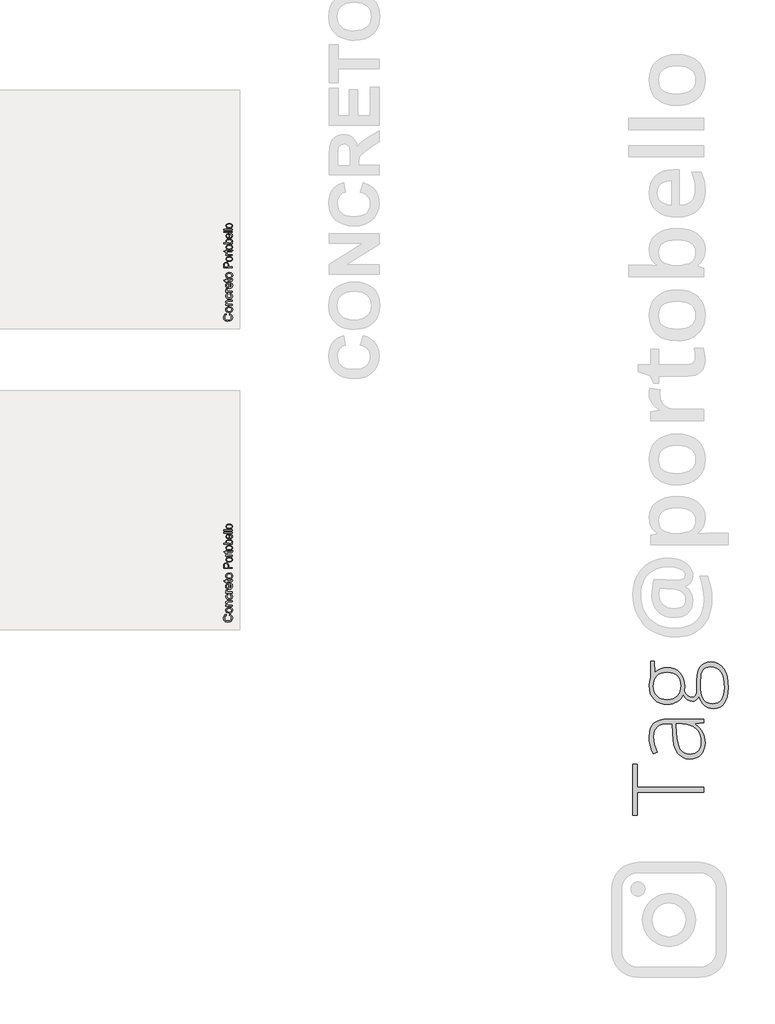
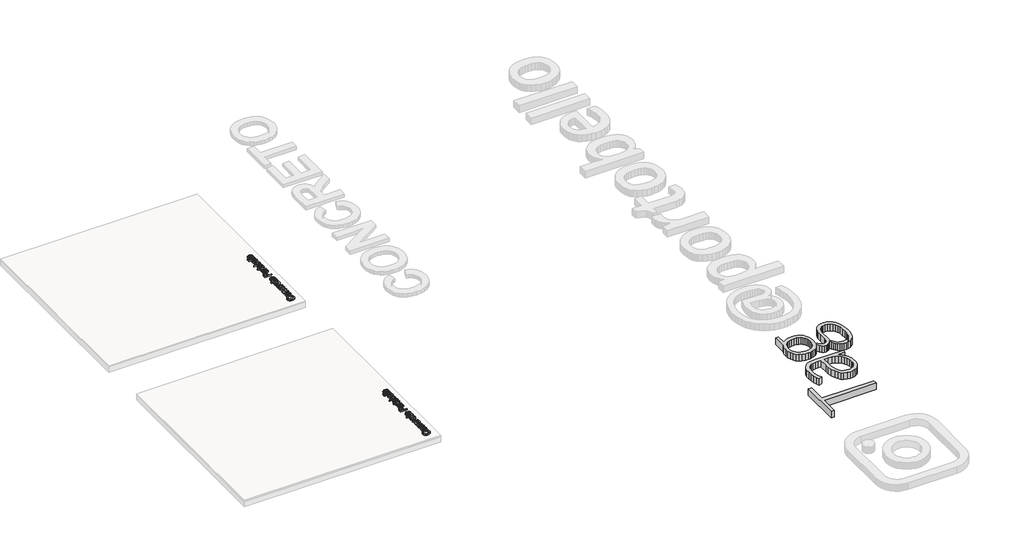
# One storey, part 7 of 12: 5 proxies.
"""IFC4 building model written with IfcOpenShell, lengths in millimetres."""

from ifc_helpers import new_model, si_unit, frame, origin, origin_with_axes, place, context, project, spatial, polyline, outline, extrude, element, save

model = new_model("IFC4")

# Units and contexts
model_context = context("Model", 3, world=origin())
ifc_project = project(units=[si_unit("LENGTHUNIT", "METRE", prefix="MILLI")], contexts=[model_context])

# Site, building, storey
site = spatial("IfcSite", under=ifc_project)
building = spatial("IfcBuilding", under=site)
storey = spatial("IfcBuildingStorey", under=building, Name="PORTOBELLO - SHOWROOM", Elevation=0.0)

# Proxies
placement = place(None, origin())
element("IfcBuildingElementProxy", 1, Name="10mm Arial", ObjectType="10mm Arial", at=placement, inside=storey, context=model_context, shape_type="SweptSolid", body=[
    extrude(outline(polyline([(-15805.3095564, -9697.3091823), (-15802.0721949, -9684.7521435), (-15787.4396885, -9690.5462849), (-15776.7496509, -9699.6391016), (-15770.2105484, -9711.5830037), (-15768.0308476, -9725.9304015), (-15769.6801852, -9740.4954628), (-15774.628198, -9752.0622859), (-15782.7032078, -9760.928242), (-15793.7335363, -9767.3907024), (-15820.588922, -9772.6514149), (-15835.2367567, -9771.1645585), (-15847.885766, -9766.7039893), (-15858.1343452, -9759.5026993), (-15865.58089, -9749.7936803), (-15870.1150356, -9738.2789738), (-15871.6264174, -9725.6606214), (-15869.6705115, -9711.8926377), (-15863.8027937, -9700.5097556), (-15854.3850146, -9691.8675944), (-15841.7789249, -9686.3217734), (-15838.786818, -9698.8788121), (-15854.2255991, -9709.179508), (-15859.0693787, -9726.1511307), (-15853.6983015, -9745.7960293), (-15839.2773273, -9756.8938028), (-15820.6134474, -9760.0943761), (-15798.9819861, -9756.3051916), (-15785.1618858, -9744.5084423), (-15780.5878863, -9727.1812003), (-15782.1452535, -9716.6996291), (-15786.8173548, -9707.9654974), (-15794.5551394, -9701.3712127), (-15805.3095564, -9697.3091823)])), frame((0.0, 0.0, 17.0), z_axis=(0.0, 0.0, 1.0), x_axis=(1.0, 0.0, 0.0)), (0.0, 0.0, 1.0), 20.0),
    extrude(outline(polyline([(-15806.4867788, -9672.1951048), (-15824.2738733, -9669.4789094), (-15836.7757297, -9661.3303232), (-15842.900965, -9651.2626192), (-15844.94271, -9639.2083525), (-15842.4564409, -9626.0167173), (-15834.9976334, -9615.4799638), (-15823.1548989, -9608.5729794), (-15807.5168484, -9606.2706512), (-15785.1741486, -9610.3418786), (-15772.5312707, -9622.1999416), (-15768.0308476, -9639.2083525), (-15770.5079197, -9652.5594033), (-15777.939136, -9663.083894), (-15790.0301909, -9669.9173021), (-15806.4867788, -9672.1951048)]), holes=[polyline([(-15806.5113043, -9659.638066), (-15795.1468163, -9658.1849321), (-15787.0503467, -9653.8255305), (-15782.2035014, -9647.2649682), (-15780.5878863, -9639.2083525), (-15782.2126985, -9631.188525), (-15787.0871349, -9624.6402255), (-15795.2909034, -9620.2808239), (-15806.9037117, -9618.82769), (-15817.9371059, -9620.2900209), (-15825.9232109, -9624.6770137), (-15830.7700562, -9631.2345103), (-15832.3856713, -9639.2083525), (-15830.7761875, -9647.2649682), (-15825.9477364, -9653.8255305), (-15817.8696609, -9658.1849321), (-15806.5113043, -9659.638066)])]), frame((0.0, 0.0, 17.0), z_axis=(0.0, 0.0, 1.0), x_axis=(1.0, 0.0, 0.0)), (0.0, 0.0, 1.0), 20.0),
    extrude(outline(polyline([(-15769.6004774, -9592.1439826), (-15843.3730802, -9592.1439826), (-15843.3730802, -9579.5869438), (-15833.0723843, -9579.5869438), (-15841.9751286, -9569.9852238), (-15844.94271, -9556.876362), (-15842.5514771, -9545.018299), (-15836.2729577, -9536.9248951), (-15827.0391196, -9533.160236), (-15814.8990138, -9532.4980485), (-15769.6004774, -9532.4980485), (-15769.6004774, -9545.0550872), (-15813.2067566, -9545.0550872), (-15824.3167928, -9546.5020897), (-15830.190642, -9551.6156495), (-15832.3856713, -9560.2363509), (-15827.4560525, -9573.8602474), (-15820.3130105, -9578.1552697), (-15808.7431217, -9579.5869438), (-15769.6004774, -9579.5869438), (-15769.6004774, -9592.1439826)])), frame((0.0, 0.0, 17.0), z_axis=(0.0, 0.0, 1.0), x_axis=(1.0, 0.0, 0.0)), (0.0, 0.0, 1.0), 20.0),
    extrude(outline(polyline([(-15796.2841848, -9468.1432248), (-15794.714555, -9455.586186), (-15783.5462707, -9459.0871963), (-15775.1064446, -9465.6661527), (-15769.7997468, -9474.703787), (-15768.0308476, -9485.5808313), (-15770.4987226, -9498.9380134), (-15777.9023478, -9509.3827964), (-15789.9167606, -9516.124234), (-15806.2169987, -9518.3713798), (-15827.0759078, -9514.5331444), (-15840.4790752, -9502.8344969), (-15844.94271, -9485.7525096), (-15843.4098684, -9475.1421797), (-15838.8113435, -9466.659434), (-15831.3923899, -9460.5740527), (-15821.3982623, -9457.1558158), (-15819.8286325, -9469.7128546), (-15829.2341488, -9475.5376529), (-15832.3856713, -9485.6544077), (-15830.8344355, -9493.7692714), (-15826.1807283, -9500.210272), (-15818.1731635, -9504.4133238), (-15806.5603552, -9505.8143411), (-15794.791197, -9504.4439806), (-15786.7560411, -9500.3328993), (-15782.129925, -9494.0083947), (-15780.5878863, -9485.9977643), (-15784.4383846, -9474.1642267), (-15796.2841848, -9468.1432248)])), frame((0.0, 0.0, 17.0), z_axis=(0.0, 0.0, 1.0), x_axis=(1.0, 0.0, 0.0)), (0.0, 0.0, 1.0), 20.0),
    extrude(outline(polyline([(-15769.6004774, -9444.5987771), (-15843.3730802, -9444.5987771), (-15843.3730802, -9433.6113681), (-15832.4592477, -9433.6113681), (-15842.5146889, -9425.8122698), (-15844.94271, -9417.9641206), (-15841.0676864, -9405.3580309), (-15829.8104973, -9409.5518857), (-15832.3856713, -9418.3810535), (-15829.9085992, -9425.4811761), (-15823.0414686, -9430.0061246), (-15808.3752397, -9432.0417383), (-15769.6004774, -9432.0417383), (-15769.6004774, -9444.5987771)])), frame((0.0, 0.0, 17.0), z_axis=(0.0, 0.0, 1.0), x_axis=(1.0, 0.0, 0.0)), (0.0, 0.0, 1.0), 20.0),
    extrude(outline(polyline([(-15791.5752953, -9345.8592496), (-15790.0056654, -9333.5474655), (-15780.7289078, -9337.9835092), (-15773.7943322, -9345.0621719), (-15769.4717187, -9354.6240381), (-15768.0308476, -9366.5096922), (-15770.5171167, -9381.2433661), (-15777.9759242, -9392.580263), (-15789.922892, -9399.8091442), (-15805.8736422, -9402.2187712), (-15822.3608869, -9399.7846187), (-15834.6910651, -9392.4821611), (-15842.3797988, -9381.2985484), (-15844.94271, -9367.2209308), (-15842.3859302, -9353.5817058), (-15834.7155906, -9342.6832017), (-15822.4099378, -9335.5370939), (-15805.9472185, -9333.155058), (-15802.5627042, -9333.2286344), (-15802.5627042, -9389.6617325), (-15793.1633192, -9387.488163), (-15786.2532691, -9382.4389826), (-15782.004232, -9375.1518534), (-15780.5878863, -9366.2644376), (-15783.2121112, -9353.9526535), (-15791.5752953, -9345.8592496)]), holes=[polyline([(-15815.119743, -9389.6617325), (-15815.119743, -9345.7120968), (-15826.4995593, -9350.7398174), (-15830.9141433, -9358.0606691), (-15832.3856713, -9367.2699817), (-15827.6890445, -9382.7332882), (-15822.1984057, -9387.5985276), (-15815.119743, -9389.6617325)])]), frame((0.0, 0.0, 17.0), z_axis=(0.0, 0.0, 1.0), x_axis=(1.0, 0.0, 0.0)), (0.0, 0.0, 1.0), 20.0),
    extrude(outline(polyline([(-15780.0728516, -9293.9143118), (-15769.2325954, -9292.344682), (-15768.0308476, -9301.7379356), (-15770.1155122, -9312.2593607), (-15775.5846912, -9317.5078105), (-15789.8339872, -9319.0283894), (-15830.8160414, -9319.0283894), (-15830.8160414, -9328.4461685), (-15843.3730802, -9328.4461685), (-15843.3730802, -9319.0283894), (-15861.3011961, -9319.0283894), (-15868.6833615, -9306.4713506), (-15843.3730802, -9306.4713506), (-15843.3730802, -9293.9143118), (-15830.8160414, -9293.9143118), (-15830.8160414, -9306.4713506), (-15790.2018692, -9306.4713506), (-15783.727146, -9305.809163), (-15781.4340149, -9303.6631847), (-15780.5878863, -9299.3834908), (-15780.0728516, -9293.9143118)])), frame((0.0, 0.0, 17.0), z_axis=(0.0, 0.0, 1.0), x_axis=(1.0, 0.0, 0.0)), (0.0, 0.0, 1.0), 20.0),
    extrude(outline(polyline([(-15806.4867788, -9284.4965328), (-15824.2738733, -9281.7803374), (-15836.7757297, -9273.6317512), (-15842.900965, -9263.5640472), (-15844.94271, -9251.5097805), (-15842.4564409, -9238.3181453), (-15834.9976334, -9227.7813918), (-15823.1548989, -9220.8744074), (-15807.5168484, -9218.5720792), (-15785.1741486, -9222.6433066), (-15772.5312707, -9234.5013696), (-15768.0308476, -9251.5097805), (-15770.5079197, -9264.8608313), (-15777.939136, -9275.385322), (-15790.0301909, -9282.2187301), (-15806.4867788, -9284.4965328)]), holes=[polyline([(-15806.5113043, -9271.939494), (-15795.1468163, -9270.4863601), (-15787.0503467, -9266.1269585), (-15782.2035014, -9259.5663962), (-15780.5878863, -9251.5097805), (-15782.2126985, -9243.489953), (-15787.0871349, -9236.9416535), (-15795.2909034, -9232.5822519), (-15806.9037117, -9231.129118), (-15817.9371059, -9232.5914489), (-15825.9232109, -9236.9784417), (-15830.7700562, -9243.5359383), (-15832.3856713, -9251.5097805), (-15830.7761875, -9259.5663962), (-15825.9477364, -9266.1269585), (-15817.8696609, -9270.4863601), (-15806.5113043, -9271.939494)])]), frame((0.0, 0.0, 17.0), z_axis=(0.0, 0.0, 1.0), x_axis=(1.0, 0.0, 0.0)), (0.0, 0.0, 1.0), 20.0),
])
element("IfcBuildingElementProxy", 2, Name="10mm Arial", ObjectType="10mm Arial", at=placement, inside=storey, context=model_context, shape_type="SweptSolid", body=[
    extrude(outline(polyline([(-15805.3095564, -6297.3091823), (-15802.0721949, -6284.7521435), (-15787.4396885, -6290.5462849), (-15776.7496509, -6299.6391016), (-15770.2105484, -6311.5830037), (-15768.0308476, -6325.9304015), (-15769.6801852, -6340.4954628), (-15774.628198, -6352.0622859), (-15782.7032078, -6360.928242), (-15793.7335363, -6367.3907024), (-15820.588922, -6372.6514149), (-15835.2367567, -6371.1645585), (-15847.885766, -6366.7039893), (-15858.1343452, -6359.5026993), (-15865.58089, -6349.7936803), (-15870.1150356, -6338.2789738), (-15871.6264174, -6325.6606214), (-15869.6705115, -6311.8926377), (-15863.8027937, -6300.5097556), (-15854.3850146, -6291.8675944), (-15841.7789249, -6286.3217734), (-15838.786818, -6298.8788121), (-15854.2255991, -6309.179508), (-15859.0693787, -6326.1511307), (-15853.6983015, -6345.7960293), (-15839.2773273, -6356.8938028), (-15820.6134474, -6360.0943761), (-15798.9819861, -6356.3051916), (-15785.1618858, -6344.5084423), (-15780.5878863, -6327.1812003), (-15782.1452535, -6316.6996291), (-15786.8173548, -6307.9654974), (-15794.5551394, -6301.3712127), (-15805.3095564, -6297.3091823)])), frame((0.0, 0.0, 17.0), z_axis=(0.0, 0.0, 1.0), x_axis=(1.0, 0.0, 0.0)), (0.0, 0.0, 1.0), 20.0),
    extrude(outline(polyline([(-15806.4867788, -6272.1951048), (-15824.2738733, -6269.4789094), (-15836.7757297, -6261.3303232), (-15842.900965, -6251.2626192), (-15844.94271, -6239.2083525), (-15842.4564409, -6226.0167173), (-15834.9976334, -6215.4799638), (-15823.1548989, -6208.5729794), (-15807.5168484, -6206.2706512), (-15785.1741486, -6210.3418786), (-15772.5312707, -6222.1999416), (-15768.0308476, -6239.2083525), (-15770.5079197, -6252.5594033), (-15777.939136, -6263.083894), (-15790.0301909, -6269.9173021), (-15806.4867788, -6272.1951048)]), holes=[polyline([(-15806.5113043, -6259.638066), (-15795.1468163, -6258.1849321), (-15787.0503467, -6253.8255305), (-15782.2035014, -6247.2649682), (-15780.5878863, -6239.2083525), (-15782.2126985, -6231.188525), (-15787.0871349, -6224.6402255), (-15795.2909034, -6220.2808239), (-15806.9037117, -6218.82769), (-15817.9371059, -6220.2900209), (-15825.9232109, -6224.6770137), (-15830.7700562, -6231.2345103), (-15832.3856713, -6239.2083525), (-15830.7761875, -6247.2649682), (-15825.9477364, -6253.8255305), (-15817.8696609, -6258.1849321), (-15806.5113043, -6259.638066)])]), frame((0.0, 0.0, 17.0), z_axis=(0.0, 0.0, 1.0), x_axis=(1.0, 0.0, 0.0)), (0.0, 0.0, 1.0), 20.0),
    extrude(outline(polyline([(-15769.6004774, -6192.1439826), (-15843.3730802, -6192.1439826), (-15843.3730802, -6179.5869438), (-15833.0723843, -6179.5869438), (-15841.9751286, -6169.9852238), (-15844.94271, -6156.876362), (-15842.5514771, -6145.018299), (-15836.2729577, -6136.9248951), (-15827.0391196, -6133.160236), (-15814.8990138, -6132.4980485), (-15769.6004774, -6132.4980485), (-15769.6004774, -6145.0550872), (-15813.2067566, -6145.0550872), (-15824.3167928, -6146.5020897), (-15830.190642, -6151.6156495), (-15832.3856713, -6160.2363509), (-15827.4560525, -6173.8602474), (-15820.3130105, -6178.1552697), (-15808.7431217, -6179.5869438), (-15769.6004774, -6179.5869438), (-15769.6004774, -6192.1439826)])), frame((0.0, 0.0, 17.0), z_axis=(0.0, 0.0, 1.0), x_axis=(1.0, 0.0, 0.0)), (0.0, 0.0, 1.0), 20.0),
    extrude(outline(polyline([(-15796.2841848, -6068.1432248), (-15794.714555, -6055.586186), (-15783.5462707, -6059.0871963), (-15775.1064446, -6065.6661527), (-15769.7997468, -6074.703787), (-15768.0308476, -6085.5808313), (-15770.4987226, -6098.9380134), (-15777.9023478, -6109.3827964), (-15789.9167606, -6116.124234), (-15806.2169987, -6118.3713798), (-15827.0759078, -6114.5331444), (-15840.4790752, -6102.8344969), (-15844.94271, -6085.7525096), (-15843.4098684, -6075.1421797), (-15838.8113435, -6066.659434), (-15831.3923899, -6060.5740527), (-15821.3982623, -6057.1558158), (-15819.8286325, -6069.7128546), (-15829.2341488, -6075.5376529), (-15832.3856713, -6085.6544077), (-15830.8344355, -6093.7692714), (-15826.1807283, -6100.210272), (-15818.1731635, -6104.4133238), (-15806.5603552, -6105.8143411), (-15794.791197, -6104.4439806), (-15786.7560411, -6100.3328993), (-15782.129925, -6094.0083947), (-15780.5878863, -6085.9977643), (-15784.4383846, -6074.1642267), (-15796.2841848, -6068.1432248)])), frame((0.0, 0.0, 17.0), z_axis=(0.0, 0.0, 1.0), x_axis=(1.0, 0.0, 0.0)), (0.0, 0.0, 1.0), 20.0),
    extrude(outline(polyline([(-15769.6004774, -6044.5987771), (-15843.3730802, -6044.5987771), (-15843.3730802, -6033.6113681), (-15832.4592477, -6033.6113681), (-15842.5146889, -6025.8122698), (-15844.94271, -6017.9641206), (-15841.0676864, -6005.3580309), (-15829.8104973, -6009.5518857), (-15832.3856713, -6018.3810535), (-15829.9085992, -6025.4811761), (-15823.0414686, -6030.0061246), (-15808.3752397, -6032.0417383), (-15769.6004774, -6032.0417383), (-15769.6004774, -6044.5987771)])), frame((0.0, 0.0, 17.0), z_axis=(0.0, 0.0, 1.0), x_axis=(1.0, 0.0, 0.0)), (0.0, 0.0, 1.0), 20.0),
    extrude(outline(polyline([(-15791.5752953, -5945.8592496), (-15790.0056654, -5933.5474655), (-15780.7289078, -5937.9835092), (-15773.7943322, -5945.0621719), (-15769.4717187, -5954.6240381), (-15768.0308476, -5966.5096922), (-15770.5171167, -5981.2433661), (-15777.9759242, -5992.580263), (-15789.922892, -5999.8091442), (-15805.8736422, -6002.2187712), (-15822.3608869, -5999.7846187), (-15834.6910651, -5992.4821611), (-15842.3797988, -5981.2985484), (-15844.94271, -5967.2209308), (-15842.3859302, -5953.5817058), (-15834.7155906, -5942.6832017), (-15822.4099378, -5935.5370939), (-15805.9472185, -5933.155058), (-15802.5627042, -5933.2286344), (-15802.5627042, -5989.6617325), (-15793.1633192, -5987.488163), (-15786.2532691, -5982.4389826), (-15782.004232, -5975.1518534), (-15780.5878863, -5966.2644376), (-15783.2121112, -5953.9526535), (-15791.5752953, -5945.8592496)]), holes=[polyline([(-15815.119743, -5989.6617325), (-15815.119743, -5945.7120968), (-15826.4995593, -5950.7398174), (-15830.9141433, -5958.0606691), (-15832.3856713, -5967.2699817), (-15827.6890445, -5982.7332882), (-15822.1984057, -5987.5985276), (-15815.119743, -5989.6617325)])]), frame((0.0, 0.0, 17.0), z_axis=(0.0, 0.0, 1.0), x_axis=(1.0, 0.0, 0.0)), (0.0, 0.0, 1.0), 20.0),
    extrude(outline(polyline([(-15780.0728516, -5893.9143118), (-15769.2325954, -5892.344682), (-15768.0308476, -5901.7379356), (-15770.1155122, -5912.2593607), (-15775.5846912, -5917.5078105), (-15789.8339872, -5919.0283894), (-15830.8160414, -5919.0283894), (-15830.8160414, -5928.4461685), (-15843.3730802, -5928.4461685), (-15843.3730802, -5919.0283894), (-15861.3011961, -5919.0283894), (-15868.6833615, -5906.4713506), (-15843.3730802, -5906.4713506), (-15843.3730802, -5893.9143118), (-15830.8160414, -5893.9143118), (-15830.8160414, -5906.4713506), (-15790.2018692, -5906.4713506), (-15783.727146, -5905.809163), (-15781.4340149, -5903.6631847), (-15780.5878863, -5899.3834908), (-15780.0728516, -5893.9143118)])), frame((0.0, 0.0, 17.0), z_axis=(0.0, 0.0, 1.0), x_axis=(1.0, 0.0, 0.0)), (0.0, 0.0, 1.0), 20.0),
    extrude(outline(polyline([(-15806.4867788, -5884.4965328), (-15824.2738733, -5881.7803374), (-15836.7757297, -5873.6317512), (-15842.900965, -5863.5640472), (-15844.94271, -5851.5097805), (-15842.4564409, -5838.3181453), (-15834.9976334, -5827.7813918), (-15823.1548989, -5820.8744074), (-15807.5168484, -5818.5720792), (-15785.1741486, -5822.6433066), (-15772.5312707, -5834.5013696), (-15768.0308476, -5851.5097805), (-15770.5079197, -5864.8608313), (-15777.939136, -5875.385322), (-15790.0301909, -5882.2187301), (-15806.4867788, -5884.4965328)]), holes=[polyline([(-15806.5113043, -5871.939494), (-15795.1468163, -5870.4863601), (-15787.0503467, -5866.1269585), (-15782.2035014, -5859.5663962), (-15780.5878863, -5851.5097805), (-15782.2126985, -5843.489953), (-15787.0871349, -5836.9416535), (-15795.2909034, -5832.5822519), (-15806.9037117, -5831.129118), (-15817.9371059, -5832.5914489), (-15825.9232109, -5836.9784417), (-15830.7700562, -5843.5359383), (-15832.3856713, -5851.5097805), (-15830.7761875, -5859.5663962), (-15825.9477364, -5866.1269585), (-15817.8696609, -5870.4863601), (-15806.5113043, -5871.939494)])]), frame((0.0, 0.0, 17.0), z_axis=(0.0, 0.0, 1.0), x_axis=(1.0, 0.0, 0.0)), (0.0, 0.0, 1.0), 20.0),
])
element("IfcBuildingElementProxy", 3, Name="10mm Arial Narrow", ObjectType="10mm Arial Narrow", at=placement, inside=storey, context=model_context, shape_type="SweptSolid", body=[
    extrude(outline(polyline([(-15769.6004774, -9165.6286257), (-15870.3190812, -9165.6286257), (-15870.3190812, -9134.3317411), (-15868.4407604, -9118.0360395), (-15858.9603173, -9106.5630534), (-15841.9412084, -9102.273375), (-15829.8653829, -9104.0596834), (-15820.2389891, -9109.4186086), (-15813.9377307, -9119.1623974), (-15811.8373113, -9134.1032966), (-15811.8373113, -9155.8816641), (-15769.6004774, -9155.8816641), (-15769.6004774, -9165.6286257)]), holes=[polyline([(-15823.2087665, -9155.8816641), (-15823.2087665, -9132.9103091), (-15827.7395807, -9117.0461137), (-15841.4081715, -9112.0203366), (-15851.5739479, -9114.4951511), (-15857.3738977, -9120.47278), (-15858.9476259, -9133.1387536), (-15858.9476259, -9155.8816641), (-15823.2087665, -9155.8816641)])]), frame((0.0, 0.0, 17.0), z_axis=(0.0, 0.0, 1.0), x_axis=(1.0, 0.0, 0.0)), (0.0, 0.0, 1.0), 20.0),
    extrude(outline(polyline([(-15806.1515836, -9094.1509069), (-15822.7423592, -9092.1964381), (-15834.694444, -9086.3330315), (-15841.9189986, -9077.4744647), (-15844.3271834, -9066.5345156), (-15841.9189986, -9055.72148), (-15834.694444, -9046.8375306), (-15822.9327295, -9040.8979758), (-15806.913065, -9038.9181242), (-15789.7511784, -9040.8630746), (-15777.6087233, -9046.6979257), (-15770.3841687, -9055.5469739), (-15767.9759838, -9066.5345156), (-15770.3905144, -9077.3951438), (-15777.634106, -9086.2695747), (-15789.5925365, -9092.1805739), (-15806.1515836, -9094.1509069)]), holes=[polyline([(-15806.1769663, -9084.4039453), (-15793.6252149, -9083.0999084), (-15784.7539569, -9079.1877978), (-15779.4806983, -9073.3466011), (-15777.7229455, -9066.2553058), (-15779.4965625, -9059.5352326), (-15784.8174137, -9053.8431593), (-15793.7045359, -9049.9596042), (-15806.1769663, -9048.6650859), (-15818.6906437, -9049.9691228), (-15827.5492104, -9053.8812333), (-15832.8224689, -9059.7224301), (-15834.5802218, -9066.8137254), (-15832.8129504, -9073.5813912), (-15827.5111363, -9079.263946), (-15818.6430511, -9083.1189455), (-15806.1769663, -9084.4039453)])]), frame((0.0, 0.0, 17.0), z_axis=(0.0, 0.0, 1.0), x_axis=(1.0, 0.0, 0.0)), (0.0, 0.0, 1.0), 20.0),
    extrude(outline(polyline([(-15777.7229455, -8967.4404054), (-15767.9759838, -8965.8159118), (-15767.9759838, -8973.1768985), (-15770.0954403, -8981.4516628), (-15775.8953902, -8985.766724), (-15790.5412154, -8986.9343288), (-15832.9557282, -8986.9343288), (-15832.9557282, -8995.0567968), (-15836.2047154, -8995.0567968), (-15831.3312346, -8996.6812904), (-15832.9557282, -9004.2453388), (-15830.63321, -9010.3244985), (-15824.1479269, -9014.1953621), (-15808.7406203, -9016.1752137), (-15769.6004774, -9016.1752137), (-15769.6004774, -9025.9221754), (-15842.7026898, -9025.9221754), (-15842.7026898, -9016.1752137), (-15833.0064936, -9016.1752137), (-15842.0935047, -9009.9310664), (-15844.3271834, -9003.5346228), (-15842.7026898, -8995.0567968), (-15842.7026898, -8986.9343288), (-15858.9476259, -8986.9343288), (-15867.070094, -8977.1873671), (-15842.7026898, -8977.1873671), (-15842.7026898, -8967.4404054), (-15832.9557282, -8967.4404054), (-15832.9557282, -8977.1873671), (-15788.3075366, -8977.1873671), (-15780.3119822, -8976.3243549), (-15777.7229455, -8971.7047012), (-15777.7229455, -8967.4404054)])), frame((0.0, 0.0, 17.0), z_axis=(0.0, 0.0, 1.0), x_axis=(1.0, 0.0, 0.0)), (0.0, 0.0, 1.0), 20.0),
    extrude(outline(polyline([(-15806.1515836, -8960.942431), (-15822.7423592, -8958.9879621), (-15834.694444, -8953.1245555), (-15841.9189986, -8944.2659888), (-15844.3271834, -8933.3260397), (-15841.9189986, -8922.5130041), (-15834.694444, -8913.6290547), (-15822.9327295, -8907.6894999), (-15806.913065, -8905.7096483), (-15789.7511784, -8907.6545987), (-15777.6087233, -8913.4894497), (-15770.3841687, -8922.3384979), (-15767.9759838, -8933.3260397), (-15770.3905144, -8944.1866678), (-15777.634106, -8953.0610987), (-15789.5925365, -8958.9720979), (-15806.1515836, -8960.942431)]), holes=[polyline([(-15806.1769663, -8951.1954694), (-15793.6252149, -8949.8914325), (-15784.7539569, -8945.9793219), (-15779.4806983, -8940.1381252), (-15777.7229455, -8933.0468298), (-15779.4965625, -8926.3267567), (-15784.8174137, -8920.6346833), (-15793.7045359, -8916.7511283), (-15806.1769663, -8915.45661), (-15818.6906437, -8916.7606468), (-15827.5492104, -8920.6727574), (-15832.8224689, -8926.5139542), (-15834.5802218, -8933.6052495), (-15832.8129504, -8940.3729153), (-15827.5111363, -8946.05547), (-15818.6430511, -8949.9104695), (-15806.1769663, -8951.1954694)])]), frame((0.0, 0.0, 17.0), z_axis=(0.0, 0.0, 1.0), x_axis=(1.0, 0.0, 0.0)), (0.0, 0.0, 1.0), 20.0),
    extrude(outline(polyline([(-15769.6004774, -8882.9667378), (-15769.6004774, -8892.7136994), (-15870.3190812, -8892.7136994), (-15870.3190812, -8882.9667378), (-15834.910197, -8882.9667378), (-15841.9919739, -8875.5676771), (-15844.3271834, -8866.3664437), (-15840.1263445, -8853.4847171), (-15827.3969141, -8844.2073356), (-15806.7100033, -8840.729904), (-15790.2556598, -8842.662163), (-15778.0529207, -8848.45894), (-15770.495218, -8856.8320623), (-15767.9759838, -8866.4933573), (-15770.5904032, -8875.8341955), (-15778.3575133, -8882.9667378), (-15769.6004774, -8882.9667378)]), holes=[polyline([(-15806.7100033, -8882.9667378), (-15789.4624501, -8880.8853553), (-15780.7307969, -8874.996566), (-15777.7229455, -8866.5441227), (-15779.5124267, -8860.6013951), (-15784.8808704, -8855.3630378), (-15806.3038799, -8850.4768656), (-15827.7395807, -8855.1853588), (-15832.8700615, -8860.4300618), (-15834.5802218, -8866.7471844), (-15832.7907405, -8872.7248132), (-15827.4222968, -8878.0171088), (-15806.7100033, -8882.9667378)])]), frame((0.0, 0.0, 17.0), z_axis=(0.0, 0.0, 1.0), x_axis=(1.0, 0.0, 0.0)), (0.0, 0.0, 1.0), 20.0),
    extrude(outline(polyline([(-15792.343388, -8788.7461085), (-15790.7188943, -8778.9991468), (-15780.8323278, -8782.6986772), (-15773.7124769, -8788.5176641), (-15769.4101071, -8796.2213173), (-15767.9759838, -8805.5748469), (-15770.3905144, -8817.1684009), (-15777.634106, -8826.3125232), (-15789.4402402, -8832.2520779), (-15805.5423985, -8834.2319295), (-15822.2093222, -8832.2425594), (-15834.3898514, -8826.2744491), (-15841.8428504, -8817.2604133), (-15844.3271834, -8806.1332666), (-15841.9285171, -8795.4503174), (-15834.7325181, -8786.7028001), (-15822.9930135, -8780.867949), (-15806.9638304, -8778.9229987), (-15803.7148432, -8778.9991468), (-15803.7148432, -8824.4849679), (-15784.2716853, -8818.4819563), (-15779.3601304, -8812.5519201), (-15777.7229455, -8805.4479334), (-15781.3780561, -8795.2694656), (-15792.343388, -8788.7461085)]), holes=[polyline([(-15813.4618049, -8823.8250173), (-15813.4618049, -8788.7461085), (-15827.7268894, -8793.0104042), (-15832.8668887, -8798.8357367), (-15834.5802218, -8806.0571185), (-15828.8691114, -8818.2662033), (-15813.4618049, -8823.8250173)])]), frame((0.0, 0.0, 17.0), z_axis=(0.0, 0.0, 1.0), x_axis=(1.0, 0.0, 0.0)), (0.0, 0.0, 1.0), 20.0),
    extrude(outline(polyline([(-15769.6004774, -8766.0031979), (-15870.3190812, -8766.0031979), (-15870.3190812, -8756.2562363), (-15769.6004774, -8756.2562363), (-15769.6004774, -8766.0031979)])), frame((0.0, 0.0, 17.0), z_axis=(0.0, 0.0, 1.0), x_axis=(1.0, 0.0, 0.0)), (0.0, 0.0, 1.0), 20.0),
    extrude(outline(polyline([(-15769.6004774, -8740.0113002), (-15870.3190812, -8740.0113002), (-15870.3190812, -8730.2643385), (-15769.6004774, -8730.2643385), (-15769.6004774, -8740.0113002)])), frame((0.0, 0.0, 17.0), z_axis=(0.0, 0.0, 1.0), x_axis=(1.0, 0.0, 0.0)), (0.0, 0.0, 1.0), 20.0),
    extrude(outline(polyline([(-15806.1515836, -8718.8928833), (-15822.7423592, -8716.9384144), (-15834.694444, -8711.0750078), (-15841.9189986, -8702.2164411), (-15844.3271834, -8691.2764919), (-15841.9189986, -8680.4634563), (-15834.694444, -8671.5795069), (-15822.9327295, -8665.6399522), (-15806.913065, -8663.6601006), (-15789.7511784, -8665.6050509), (-15777.6087233, -8671.439902), (-15770.3841687, -8680.2889502), (-15767.9759838, -8691.2764919), (-15770.3905144, -8702.1371201), (-15777.634106, -8711.011551), (-15789.5925365, -8716.9225502), (-15806.1515836, -8718.8928833)]), holes=[polyline([(-15806.1769663, -8709.1459216), (-15793.6252149, -8707.8418848), (-15784.7539569, -8703.9297742), (-15779.4806983, -8698.0885774), (-15777.7229455, -8690.9972821), (-15779.4965625, -8684.2772089), (-15784.8174137, -8678.5851356), (-15793.7045359, -8674.7015806), (-15806.1769663, -8673.4070622), (-15818.6906437, -8674.7110991), (-15827.5492104, -8678.6232097), (-15832.8224689, -8684.4644064), (-15834.5802218, -8691.5557018), (-15832.8129504, -8698.3233675), (-15827.5111363, -8704.0059223), (-15818.6430511, -8707.8609218), (-15806.1769663, -8709.1459216)])]), frame((0.0, 0.0, 17.0), z_axis=(0.0, 0.0, 1.0), x_axis=(1.0, 0.0, 0.0)), (0.0, 0.0, 1.0), 20.0),
])
element("IfcBuildingElementProxy", 4, Name="10mm Arial Narrow", ObjectType="10mm Arial Narrow", at=placement, inside=storey, context=model_context, shape_type="SweptSolid", body=[
    extrude(outline(polyline([(-15769.6004774, -5765.6286257), (-15870.3190812, -5765.6286257), (-15870.3190812, -5734.3317411), (-15868.4407604, -5718.0360395), (-15858.9603173, -5706.5630534), (-15841.9412084, -5702.273375), (-15829.8653829, -5704.0596834), (-15820.2389891, -5709.4186086), (-15813.9377307, -5719.1623974), (-15811.8373113, -5734.1032966), (-15811.8373113, -5755.8816641), (-15769.6004774, -5755.8816641), (-15769.6004774, -5765.6286257)]), holes=[polyline([(-15823.2087665, -5755.8816641), (-15823.2087665, -5732.9103091), (-15827.7395807, -5717.0461137), (-15841.4081715, -5712.0203366), (-15851.5739479, -5714.4951511), (-15857.3738977, -5720.47278), (-15858.9476259, -5733.1387536), (-15858.9476259, -5755.8816641), (-15823.2087665, -5755.8816641)])]), frame((0.0, 0.0, 17.0), z_axis=(0.0, 0.0, 1.0), x_axis=(1.0, 0.0, 0.0)), (0.0, 0.0, 1.0), 20.0),
    extrude(outline(polyline([(-15806.1515836, -5694.1509069), (-15822.7423592, -5692.1964381), (-15834.694444, -5686.3330315), (-15841.9189986, -5677.4744647), (-15844.3271834, -5666.5345156), (-15841.9189986, -5655.72148), (-15834.694444, -5646.8375306), (-15822.9327295, -5640.8979758), (-15806.913065, -5638.9181242), (-15789.7511784, -5640.8630746), (-15777.6087233, -5646.6979257), (-15770.3841687, -5655.5469739), (-15767.9759838, -5666.5345156), (-15770.3905144, -5677.3951438), (-15777.634106, -5686.2695747), (-15789.5925365, -5692.1805739), (-15806.1515836, -5694.1509069)]), holes=[polyline([(-15806.1769663, -5684.4039453), (-15793.6252149, -5683.0999084), (-15784.7539569, -5679.1877978), (-15779.4806983, -5673.3466011), (-15777.7229455, -5666.2553058), (-15779.4965625, -5659.5352326), (-15784.8174137, -5653.8431593), (-15793.7045359, -5649.9596042), (-15806.1769663, -5648.6650859), (-15818.6906437, -5649.9691228), (-15827.5492104, -5653.8812333), (-15832.8224689, -5659.7224301), (-15834.5802218, -5666.8137254), (-15832.8129504, -5673.5813912), (-15827.5111363, -5679.263946), (-15818.6430511, -5683.1189455), (-15806.1769663, -5684.4039453)])]), frame((0.0, 0.0, 17.0), z_axis=(0.0, 0.0, 1.0), x_axis=(1.0, 0.0, 0.0)), (0.0, 0.0, 1.0), 20.0),
    extrude(outline(polyline([(-15777.7229455, -5567.4404054), (-15767.9759838, -5565.8159118), (-15767.9759838, -5573.1768985), (-15770.0954403, -5581.4516628), (-15775.8953902, -5585.766724), (-15790.5412154, -5586.9343288), (-15832.9557282, -5586.9343288), (-15832.9557282, -5595.0567968), (-15836.2047154, -5595.0567968), (-15831.3312346, -5596.6812904), (-15832.9557282, -5604.2453388), (-15830.63321, -5610.3244985), (-15824.1479269, -5614.1953621), (-15808.7406203, -5616.1752137), (-15769.6004774, -5616.1752137), (-15769.6004774, -5625.9221754), (-15842.7026898, -5625.9221754), (-15842.7026898, -5616.1752137), (-15833.0064936, -5616.1752137), (-15842.0935047, -5609.9310664), (-15844.3271834, -5603.5346228), (-15842.7026898, -5595.0567968), (-15842.7026898, -5586.9343288), (-15858.9476259, -5586.9343288), (-15867.070094, -5577.1873671), (-15842.7026898, -5577.1873671), (-15842.7026898, -5567.4404054), (-15832.9557282, -5567.4404054), (-15832.9557282, -5577.1873671), (-15788.3075366, -5577.1873671), (-15780.3119822, -5576.3243549), (-15777.7229455, -5571.7047012), (-15777.7229455, -5567.4404054)])), frame((0.0, 0.0, 17.0), z_axis=(0.0, 0.0, 1.0), x_axis=(1.0, 0.0, 0.0)), (0.0, 0.0, 1.0), 20.0),
    extrude(outline(polyline([(-15806.1515836, -5560.942431), (-15822.7423592, -5558.9879621), (-15834.694444, -5553.1245555), (-15841.9189986, -5544.2659888), (-15844.3271834, -5533.3260397), (-15841.9189986, -5522.5130041), (-15834.694444, -5513.6290547), (-15822.9327295, -5507.6894999), (-15806.913065, -5505.7096483), (-15789.7511784, -5507.6545987), (-15777.6087233, -5513.4894497), (-15770.3841687, -5522.3384979), (-15767.9759838, -5533.3260397), (-15770.3905144, -5544.1866678), (-15777.634106, -5553.0610987), (-15789.5925365, -5558.9720979), (-15806.1515836, -5560.942431)]), holes=[polyline([(-15806.1769663, -5551.1954694), (-15793.6252149, -5549.8914325), (-15784.7539569, -5545.9793219), (-15779.4806983, -5540.1381252), (-15777.7229455, -5533.0468298), (-15779.4965625, -5526.3267567), (-15784.8174137, -5520.6346833), (-15793.7045359, -5516.7511283), (-15806.1769663, -5515.45661), (-15818.6906437, -5516.7606468), (-15827.5492104, -5520.6727574), (-15832.8224689, -5526.5139542), (-15834.5802218, -5533.6052495), (-15832.8129504, -5540.3729153), (-15827.5111363, -5546.05547), (-15818.6430511, -5549.9104695), (-15806.1769663, -5551.1954694)])]), frame((0.0, 0.0, 17.0), z_axis=(0.0, 0.0, 1.0), x_axis=(1.0, 0.0, 0.0)), (0.0, 0.0, 1.0), 20.0),
    extrude(outline(polyline([(-15769.6004774, -5482.9667378), (-15769.6004774, -5492.7136994), (-15870.3190812, -5492.7136994), (-15870.3190812, -5482.9667378), (-15834.910197, -5482.9667378), (-15841.9919739, -5475.5676771), (-15844.3271834, -5466.3664437), (-15840.1263445, -5453.4847171), (-15827.3969141, -5444.2073356), (-15806.7100033, -5440.729904), (-15790.2556598, -5442.662163), (-15778.0529207, -5448.45894), (-15770.495218, -5456.8320623), (-15767.9759838, -5466.4933573), (-15770.5904032, -5475.8341955), (-15778.3575133, -5482.9667378), (-15769.6004774, -5482.9667378)]), holes=[polyline([(-15806.7100033, -5482.9667378), (-15789.4624501, -5480.8853553), (-15780.7307969, -5474.996566), (-15777.7229455, -5466.5441227), (-15779.5124267, -5460.6013951), (-15784.8808704, -5455.3630378), (-15806.3038799, -5450.4768656), (-15827.7395807, -5455.1853588), (-15832.8700615, -5460.4300618), (-15834.5802218, -5466.7471844), (-15832.7907405, -5472.7248132), (-15827.4222968, -5478.0171088), (-15806.7100033, -5482.9667378)])]), frame((0.0, 0.0, 17.0), z_axis=(0.0, 0.0, 1.0), x_axis=(1.0, 0.0, 0.0)), (0.0, 0.0, 1.0), 20.0),
    extrude(outline(polyline([(-15792.343388, -5388.7461085), (-15790.7188943, -5378.9991468), (-15780.8323278, -5382.6986772), (-15773.7124769, -5388.5176641), (-15769.4101071, -5396.2213173), (-15767.9759838, -5405.5748469), (-15770.3905144, -5417.1684009), (-15777.634106, -5426.3125232), (-15789.4402402, -5432.2520779), (-15805.5423985, -5434.2319295), (-15822.2093222, -5432.2425594), (-15834.3898514, -5426.2744491), (-15841.8428504, -5417.2604133), (-15844.3271834, -5406.1332666), (-15841.9285171, -5395.4503174), (-15834.7325181, -5386.7028001), (-15822.9930135, -5380.867949), (-15806.9638304, -5378.9229987), (-15803.7148432, -5378.9991468), (-15803.7148432, -5424.4849679), (-15784.2716853, -5418.4819563), (-15779.3601304, -5412.5519201), (-15777.7229455, -5405.4479334), (-15781.3780561, -5395.2694656), (-15792.343388, -5388.7461085)]), holes=[polyline([(-15813.4618049, -5423.8250173), (-15813.4618049, -5388.7461085), (-15827.7268894, -5393.0104042), (-15832.8668887, -5398.8357367), (-15834.5802218, -5406.0571185), (-15828.8691114, -5418.2662033), (-15813.4618049, -5423.8250173)])]), frame((0.0, 0.0, 17.0), z_axis=(0.0, 0.0, 1.0), x_axis=(1.0, 0.0, 0.0)), (0.0, 0.0, 1.0), 20.0),
    extrude(outline(polyline([(-15769.6004774, -5366.0031979), (-15870.3190812, -5366.0031979), (-15870.3190812, -5356.2562363), (-15769.6004774, -5356.2562363), (-15769.6004774, -5366.0031979)])), frame((0.0, 0.0, 17.0), z_axis=(0.0, 0.0, 1.0), x_axis=(1.0, 0.0, 0.0)), (0.0, 0.0, 1.0), 20.0),
    extrude(outline(polyline([(-15769.6004774, -5340.0113002), (-15870.3190812, -5340.0113002), (-15870.3190812, -5330.2643385), (-15769.6004774, -5330.2643385), (-15769.6004774, -5340.0113002)])), frame((0.0, 0.0, 17.0), z_axis=(0.0, 0.0, 1.0), x_axis=(1.0, 0.0, 0.0)), (0.0, 0.0, 1.0), 20.0),
    extrude(outline(polyline([(-15806.1515836, -5318.8928833), (-15822.7423592, -5316.9384144), (-15834.694444, -5311.0750078), (-15841.9189986, -5302.2164411), (-15844.3271834, -5291.2764919), (-15841.9189986, -5280.4634563), (-15834.694444, -5271.5795069), (-15822.9327295, -5265.6399522), (-15806.913065, -5263.6601006), (-15789.7511784, -5265.6050509), (-15777.6087233, -5271.439902), (-15770.3841687, -5280.2889502), (-15767.9759838, -5291.2764919), (-15770.3905144, -5302.1371201), (-15777.634106, -5311.011551), (-15789.5925365, -5316.9225502), (-15806.1515836, -5318.8928833)]), holes=[polyline([(-15806.1769663, -5309.1459216), (-15793.6252149, -5307.8418848), (-15784.7539569, -5303.9297742), (-15779.4806983, -5298.0885774), (-15777.7229455, -5290.9972821), (-15779.4965625, -5284.2772089), (-15784.8174137, -5278.5851356), (-15793.7045359, -5274.7015806), (-15806.1769663, -5273.4070622), (-15818.6906437, -5274.7110991), (-15827.5492104, -5278.6232097), (-15832.8224689, -5284.4644064), (-15834.5802218, -5291.5557018), (-15832.8129504, -5298.3233675), (-15827.5111363, -5304.0059223), (-15818.6430511, -5307.8609218), (-15806.1769663, -5309.1459216)])]), frame((0.0, 0.0, 17.0), z_axis=(0.0, 0.0, 1.0), x_axis=(1.0, 0.0, 0.0)), (0.0, 0.0, 1.0), 20.0),
])
element("IfcBuildingElementProxy", 5, Name="80mm OpenSans Light", ObjectType="80mm OpenSans Light", at=placement, inside=storey, context=model_context, shape_type="SweptSolid", body=[
    extrude(outline(polyline([(-10440.4070715, -11639.7446899), (-10440.4070715, -11696.2308367), (-11194.1966721, -11696.2308367), (-11194.1966721, -11954.8652787), (-11240.3470558, -11954.8652787), (-11240.3470558, -11381.3506145), (-11194.1966721, -11381.3506145), (-11194.1966721, -11639.7446899), (-10440.4070715, -11639.7446899)])), origin_with_axes(), (0.0, 0.0, 1.0), 100.0),
    extrude(outline(polyline([(-10440.4070715, -10909.7513809), (-10536.072971, -10923.4522761), (-10536.072971, -10927.7788746), (-10507.8975008, -10950.6512571), (-10484.1838352, -10973.8391208), (-10464.9319743, -10997.3424656), (-10450.141918, -11021.1612916), (-10439.1526584, -11046.2270192), (-10431.3031872, -11073.471069), (-10426.5935045, -11102.8934409), (-10425.0236102, -11134.4941349), (-10427.9155207, -11176.3780118), (-10436.591252, -11213.3343738), (-10451.0508042, -11245.3632208), (-10471.2941772, -11272.4645529), (-10496.6453402, -11294.0224307), (-10526.4282619, -11309.4209149), (-10560.6429426, -11318.6600054), (-10599.2893821, -11321.7397022), (-10641.5112744, -11317.1502028), (-10678.7605832, -11303.3817045), (-10711.0373082, -11280.4342074), (-10738.3414496, -11248.3077114), (-10760.237343, -11207.4979727), (-10776.2893238, -11158.5007473), (-10786.497392, -11101.3160352), (-10790.8615478, -11035.9438364), (-10794.2266799, -10921.2889769), (-10834.6082657, -10921.2889769), (-10875.230218, -10923.467299), (-10910.5641055, -10930.0022654), (-10940.6099283, -10940.8938762), (-10965.3676862, -10956.1421312), (-10984.717196, -10976.2427866), (-10998.5382745, -11001.6915985), (-11006.8309216, -11032.4885668), (-11009.5951372, -11068.6336915), (-11006.7107383, -11110.8330495), (-10998.0575413, -11153.7835531), (-10983.6355464, -11197.4852023), (-10963.4447535, -11241.937997), (-11010.5566036, -11262.3691565), (-11030.3267549, -11213.0038697), (-11044.4482916, -11163.9390412), (-11052.9212136, -11115.1746709), (-11055.745521, -11066.7107589), (-11052.5080836, -11020.32752), (-11042.7957714, -10980.2088352), (-11026.6085844, -10946.3547045), (-11003.9465226, -10918.7651277), (-10974.4340132, -10897.3649905), (-10937.6954835, -10882.0791782), (-10893.7309333, -10872.9076908), (-10842.5403629, -10869.8505283), (-10440.4070715, -10869.8505283), (-10440.4070715, -10909.7513809)]), holes=[polyline([(-10471.1739939, -11131.609736), (-10474.7419354, -11085.8499479), (-10485.4457597, -11045.1979498), (-10503.285467, -11009.6537415), (-10528.2610571, -10979.2173231), (-10559.5763159, -10954.820115), (-10596.4350289, -10937.3935378), (-10638.8371962, -10926.9375915), (-10686.7828178, -10923.4522761), (-10748.0762962, -10923.4522761), (-10743.5093312, -11028.9732055), (-10738.6043506, -11087.9832014), (-10730.13894, -11137.8592671), (-10718.1130995, -11178.6014027), (-10702.526829, -11210.2096082), (-10682.7491661, -11233.8706936), (-10658.1491488, -11250.7714689), (-10628.7267769, -11260.9119341), (-10594.4820504, -11264.2920891), (-10566.8999852, -11262.1212784), (-10542.5628687, -11255.6088464), (-10521.4707012, -11244.7547929), (-10503.6234825, -11229.5591181), (-10489.4268313, -11210.4124175), (-10479.2863661, -11187.705287), (-10473.202087, -11161.4377265), (-10471.1739939, -11131.609736)])]), origin_with_axes(), (0.0, 0.0, 1.0), 100.0),
    extrude(outline(polyline([(-11040.3620597, -10213.6497599), (-11001.9034066, -10213.6497599), (-10994.211676, -10336.9578164), (-10962.0626457, -10315.2947782), (-10928.3512326, -10299.8211795), (-10893.0774367, -10290.5370203), (-10856.241258, -10287.4423006), (-10813.6513043, -10291.0027306), (-10775.2978116, -10301.6840205), (-10741.1807799, -10319.4861705), (-10711.3002092, -10344.4091805), (-10687.0081615, -10375.341355), (-10669.6566989, -10411.1709986), (-10659.2458213, -10451.8981113), (-10655.7755288, -10497.5226931), (-10659.1406609, -10554.0088398), (-10640.8427549, -10582.4021423), (-10619.6003582, -10603.1638058), (-10596.1946623, -10615.8731888), (-10571.4068586, -10620.1096498), (-10547.0697422, -10614.7314476), (-10537.7405142, -10608.0086947), (-10530.3041731, -10598.5968407), (-10520.5693265, -10569.7828967), (-10517.3243777, -10526.3666829), (-10517.3243777, -10422.5283196), (-10514.8606202, -10377.1516158), (-10507.4693478, -10337.4085038), (-10495.1505605, -10303.2989835), (-10477.9042582, -10274.823055), (-10455.8356014, -10252.371314), (-10429.0497505, -10236.3343561), (-10397.5467053, -10226.7121814), (-10361.326466, -10223.5047898), (-10316.670862, -10228.2670527), (-10277.4084832, -10242.5538414), (-10243.5393295, -10266.3651559), (-10215.063401, -10299.7009962), (-10192.5064996, -10341.8252397), (-10176.3944272, -10392.0017637), (-10166.7271837, -10450.2305681), (-10163.5047692, -10516.5116531), (-10166.2614734, -10569.3547438), (-10174.5315861, -10615.8731888), (-10188.3151073, -10656.0669882), (-10207.612037, -10689.9361418), (-10231.8364815, -10716.8046188), (-10260.4025475, -10735.9963881), (-10293.3102348, -10747.5114496), (-10330.5595436, -10751.3498035), (-10360.5903434, -10748.9761835), (-10387.947065, -10741.8553235), (-10412.6297084, -10729.9872235), (-10434.6382735, -10713.3718836), (-10453.6723022, -10692.6853346), (-10469.4313362, -10668.6036077), (-10481.9153756, -10641.1267028), (-10491.1244202, -10610.25462), (-10504.5248572, -10634.4715531), (-10522.6124425, -10653.2802381), (-10544.545893, -10665.3586588), (-10569.4839259, -10669.3847991), (-10597.4716098, -10664.6225362), (-10623.7466818, -10650.3357475), (-10648.3091418, -10626.524433), (-10671.15899, -10593.1885927), (-10683.9134418, -10617.8186558), (-10699.8227049, -10639.5492971), (-10718.8867794, -10658.3805165), (-10741.1056653, -10674.312314), (-10765.7732858, -10686.9841398), (-10792.183564, -10696.0354439), (-10820.3364999, -10701.4662263), (-10850.2320935, -10703.2764871), (-10894.4445216, -10699.746103), (-10934.0599389, -10689.1549505), (-10969.0783453, -10671.5030296), (-10999.4997408, -10646.7903404), (-11024.1072696, -10616.0684867), (-11041.6840759, -10580.3890722), (-11052.2301597, -10539.7520969), (-11055.745521, -10494.1575609), (-11051.8996556, -10442.2984709), (-11040.3620597, -10403.5393596), (-11040.3620597, -10213.6497599)]), holes=[polyline([(-10337.2898079, -10693.9021904), (-10307.3754356, -10691.0666159), (-10281.4496463, -10682.5598924), (-10259.51244, -10668.3820198), (-10241.5638166, -10648.5329981), (-10227.6037763, -10623.0128274), (-10217.6323188, -10591.8215077), (-10211.6494444, -10554.959039), (-10209.6551529, -10512.4254212), (-10212.0851088, -10457.7232452), (-10219.3749766, -10410.3146926), (-10231.5247561, -10370.1997635), (-10248.5344475, -10337.3784579), (-10270.4040507, -10311.8507758), (-10297.1335658, -10293.6167171), (-10328.7229927, -10282.6762819), (-10365.1723314, -10279.0294702), (-10391.1394336, -10281.3129527), (-10413.2756935, -10288.1634003), (-10431.581111, -10299.5808129), (-10446.0556861, -10315.5651906), (-10457.0449458, -10336.6573582), (-10464.894417, -10363.3981404), (-10469.6040997, -10395.7875373), (-10471.1739939, -10433.8255489), (-10471.1739939, -10530.933648), (-10469.0820535, -10569.1294001), (-10462.8062323, -10602.2323853), (-10452.3465303, -10630.2426035), (-10437.7029474, -10653.1600548), (-10418.8754838, -10670.9847392), (-10395.8641393, -10683.7166565), (-10368.668914, -10691.355807), (-10337.2898079, -10693.9021904)]), polyline([(-10850.9531932, -10648.2325399), (-10817.4896582, -10645.6260648), (-10788.0071946, -10637.8066394), (-10762.5058026, -10624.7742638), (-10740.985482, -10606.5289379), (-10723.8969204, -10583.9269678), (-10711.6908049, -10557.8246593), (-10704.3671356, -10528.2220125), (-10701.9259125, -10495.1190273), (-10704.3521127, -10460.2658729), (-10711.6307132, -10429.739317), (-10723.7617142, -10403.5393596), (-10740.7451155, -10381.6660006), (-10762.3255276, -10364.4196984), (-10788.2475612, -10352.1009111), (-10818.5112161, -10344.7096387), (-10853.1164925, -10342.2458812), (-10889.8399993, -10344.7847532), (-10921.6510141, -10352.4013693), (-10948.5495369, -10365.0957294), (-10970.5355677, -10382.8678336), (-10987.6241294, -10405.1918798), (-10999.8302449, -10431.5420664), (-11007.1539141, -10461.9183932), (-11009.5951372, -10496.3208602), (-11006.9736392, -10529.7768838), (-10999.1091451, -10559.4771796), (-10986.0016549, -10585.4217475), (-10967.6511687, -10607.6105876), (-10944.628557, -10625.3826917), (-10917.5046906, -10638.0770518), (-10886.2795693, -10645.6936679), (-10850.9531932, -10648.2325399)])]), origin_with_axes(), (0.0, 0.0, 1.0), 100.0),
])

save(model, "model.ifc")
